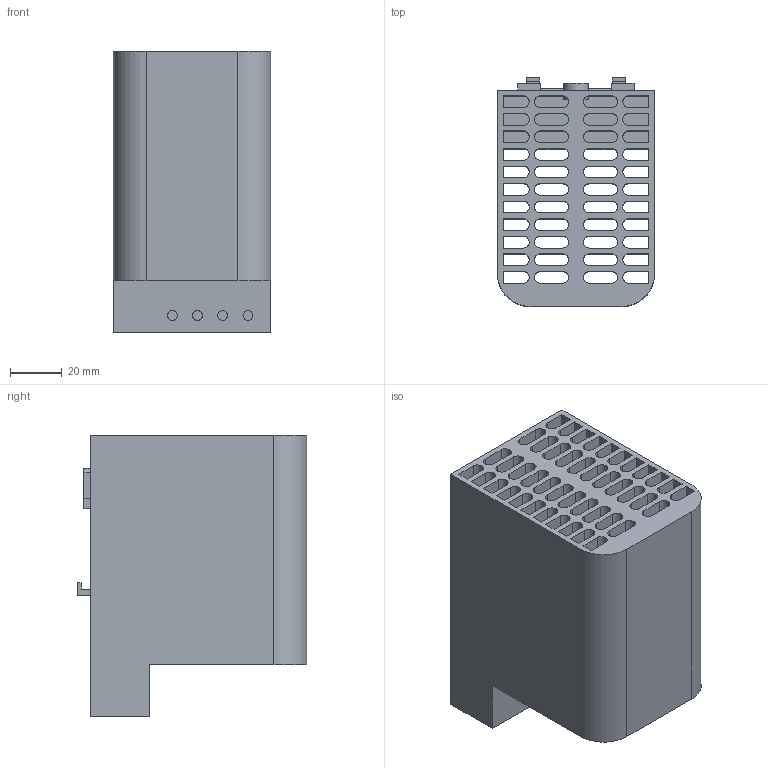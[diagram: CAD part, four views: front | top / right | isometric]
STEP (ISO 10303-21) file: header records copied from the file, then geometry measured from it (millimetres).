
FILE_DESCRIPTION (( 'STEP AP203' ), '1' );
FILE_NAME ('25925.STEP', '2012-05-16T19:31:16', ( 'User' ), ( 'Pentair Inc' ), 'SwSTEP 2.0', 'SolidWorks 2010', '' );
FILE_SCHEMA (( 'CONFIG_CONTROL_DESIGN' ));
Length unit declared in the file: inch
Products named in the file (2): 25925; 89088453
Assembly tree (1 placements, depth 2):
  25925
    89088453
Bounding box: 60.96 x 88.9 x 109.22 mm (x, y, z)
Volume: 279896.6 mm3; surface area: 152329.8 mm2
Topology: 1 solids, 1 shells, 361 faces, 987 edges, 652 vertices
Faces by surface type: plane 227, cylinder 125, bspline 9
Entity records: 11897 total; most frequent: CARTESIAN_POINT 2191, ORIENTED_EDGE 1974, DIRECTION 1968, EDGE_CURVE 987, LINE 702, VECTOR 702, VERTEX_POINT 652, AXIS2_PLACEMENT_3D 633
